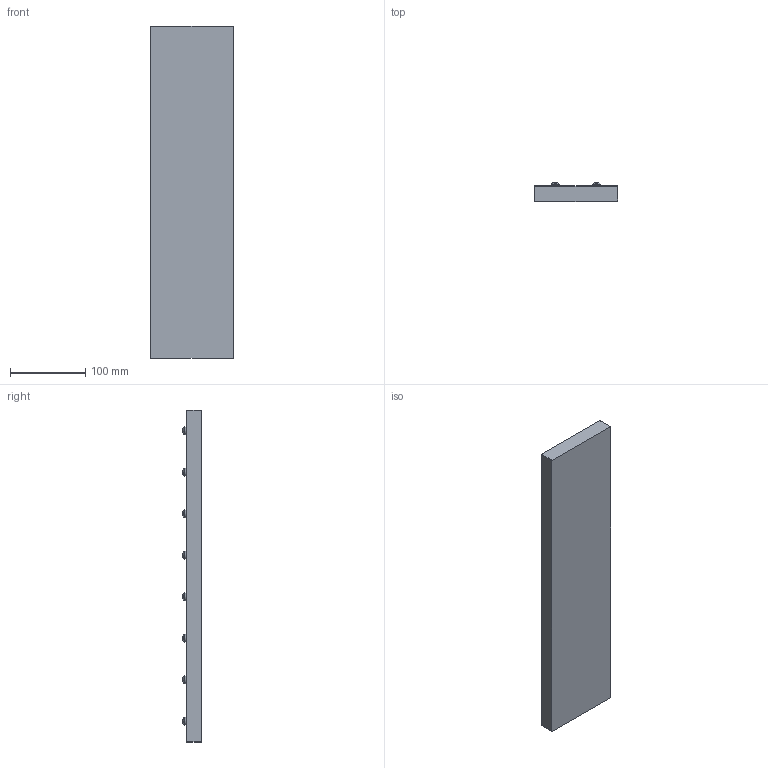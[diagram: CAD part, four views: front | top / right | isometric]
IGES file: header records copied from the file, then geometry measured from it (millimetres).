
Start section: SolidWorks IGES file using analytic representation for surfaces
Global section: file name: C:\Users\KAFLARNIA\Desktop\Modele CeramicWall\MODELE STRONA\Loft\Loft_44x11_IGES.IGS; native system: SolidWorks 2020; preprocessor: SolidWorks 2020; author: KAFLARNIA; date: 220531.081433; units: millimetre
Bounding box: 110 x 24.89 x 440 mm (x, y, z)
Surface area: 120292.8 mm2 (no closed solid volume)
Topology: 0 solids, 0 shells, 199 faces, 2927 edges, 3415 vertices
Faces by surface type: bspline 155, revolution 44
